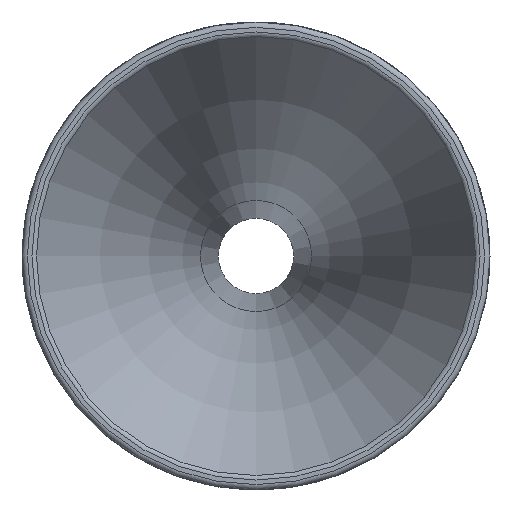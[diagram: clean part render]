
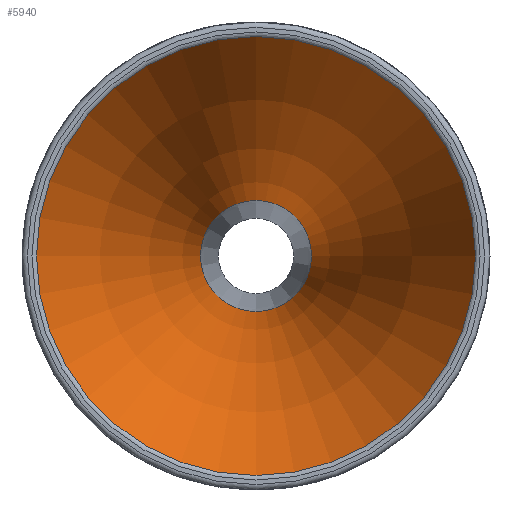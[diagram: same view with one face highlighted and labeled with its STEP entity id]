
A CAD part, front view. The second image highlights one B-rep face of the part: STEP entity #5940.
In plain terms, the highlighted toroidal (fillet/blend) face has major radius 320.271 mm and minor radius 304.8 mm.
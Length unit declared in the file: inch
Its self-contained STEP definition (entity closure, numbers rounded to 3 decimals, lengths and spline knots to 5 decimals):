
#172=TOROIDAL_SURFACE('',#6483,12.60909,12.);
#1385=FACE_OUTER_BOUND('',#1746,.T.);
#1746=EDGE_LOOP('',(#5372,#5373,#5374,#5375));
#1895=CIRCLE('',#6246,2.55047);
#2034=CIRCLE('',#6482,0.64609);
#2035=CIRCLE('',#6484,12.);
#2635=VERTEX_POINT('',#11207);
#2802=VERTEX_POINT('',#13157);
#3373=EDGE_CURVE('',#2635,#2635,#1895,.T.);
#3668=EDGE_CURVE('',#2802,#2802,#2034,.T.);
#3669=EDGE_CURVE('',#2635,#2802,#2035,.T.);
#5372=ORIENTED_EDGE('',*,*,#3373,.F.);
#5373=ORIENTED_EDGE('',*,*,#3669,.T.);
#5374=ORIENTED_EDGE('',*,*,#3668,.T.);
#5375=ORIENTED_EDGE('',*,*,#3669,.F.);
#5940=ADVANCED_FACE('',(#1385),#172,.T.);
#6246=AXIS2_PLACEMENT_3D('',#11209,#7278,#7279);
#6482=AXIS2_PLACEMENT_3D('',#13159,#7843,#7844);
#6483=AXIS2_PLACEMENT_3D('',#13160,#7845,#7846);
#6484=AXIS2_PLACEMENT_3D('',#13161,#7847,#7848);
#7278=DIRECTION('center_axis',(0.,1.,0.));
#7279=DIRECTION('ref_axis',(0.,0.,-1.));
#7843=DIRECTION('center_axis',(0.,1.,0.));
#7844=DIRECTION('ref_axis',(1.,0.,0.));
#7845=DIRECTION('center_axis',(0.,1.,0.));
#7846=DIRECTION('ref_axis',(0.,0.,1.));
#7847=DIRECTION('center_axis',(-1.,0.,0.));
#7848=DIRECTION('ref_axis',(0.,0.,
-1.));
#11207=CARTESIAN_POINT('',(0.,-8.25283,-2.55047));
#11209=CARTESIAN_POINT('Origin',(0.,-8.25283,0.));
#13157=CARTESIAN_POINT('',(0.,-2.65034,-0.64609));
#13159=CARTESIAN_POINT('Origin',(0.,-2.65034,0.));
#13160=CARTESIAN_POINT('Origin',(0.,-1.70883,0.));
#13161=CARTESIAN_POINT('Origin',(0.,-1.70883,
-12.60909));
